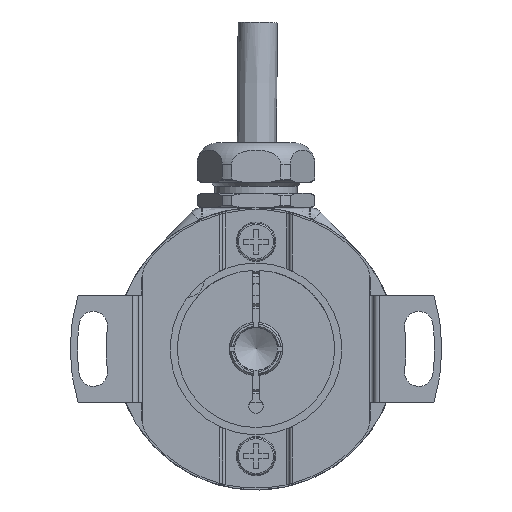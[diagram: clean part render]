
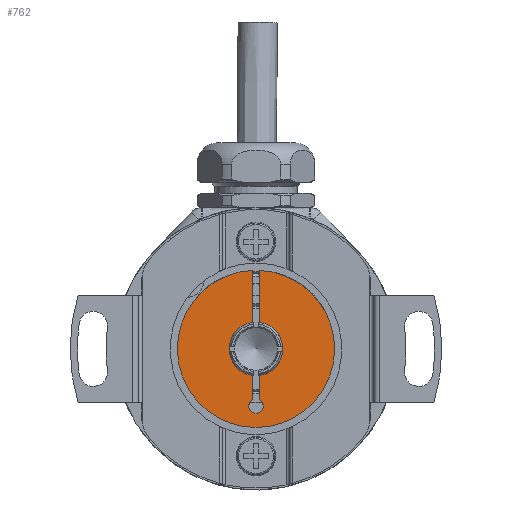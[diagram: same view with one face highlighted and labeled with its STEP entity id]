
A CAD part, left-side view. The second image highlights one B-rep face of the part: STEP entity #762.
In plain terms, the highlighted planar face has unit normal (-1, 0, 0).
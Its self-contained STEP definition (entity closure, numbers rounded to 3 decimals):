
#762 = ADVANCED_FACE( '', ( #1918 ), #1919, .T. );
#1918 = FACE_OUTER_BOUND( '', #3792, .T. );
#1919 = PLANE( '', #3793 );
#3792 = EDGE_LOOP( '', ( #6269, #6270, #6271, #6272, #6273, #6274, #6275, #6276 ) );
#3793 = AXIS2_PLACEMENT_3D( '', #6277, #6278, #6279 );
#6269 = ORIENTED_EDGE( '', *, *, #9894, .F. );
#6270 = ORIENTED_EDGE( '', *, *, #9895, .F. );
#6271 = ORIENTED_EDGE( '', *, *, #9896, .F. );
#6272 = ORIENTED_EDGE( '', *, *, #9857, .F. );
#6273 = ORIENTED_EDGE( '', *, *, #9897, .F. );
#6274 = ORIENTED_EDGE( '', *, *, #9898, .F. );
#6275 = ORIENTED_EDGE( '', *, *, #9899, .F. );
#6276 = ORIENTED_EDGE( '', *, *, #9649, .T. );
#6277 = CARTESIAN_POINT( '', ( -7., 0., 3.75 ) );
#6278 = DIRECTION( '', ( -1., 0., 0. ) );
#6279 = DIRECTION( '', ( 0., 0., 1. ) );
#9649 = EDGE_CURVE( '', #11197, #11194, #11198, .T. );
#9857 = EDGE_CURVE( '', #11550, #11551, #11552, .T. );
#9894 = EDGE_CURVE( '', #11610, #11194, #11611, .T. );
#9895 = EDGE_CURVE( '', #11612, #11610, #11613, .T. );
#9896 = EDGE_CURVE( '', #11551, #11612, #11614, .T. );
#9897 = EDGE_CURVE( '', #11615, #11550, #11616, .T. );
#9898 = EDGE_CURVE( '', #11617, #11615, #11618, .T. );
#9899 = EDGE_CURVE( '', #11197, #11617, #11619, .T. );
#11194 = VERTEX_POINT( '', #13430 );
#11197 = VERTEX_POINT( '', #13434 );
#11198 = CIRCLE( '', #13435, 11. );
#11550 = VERTEX_POINT( '', #14091 );
#11551 = VERTEX_POINT( '', #14092 );
#11552 = CIRCLE( '', #14093, 1. );
#11610 = VERTEX_POINT( '', #14190 );
#11611 = LINE( '', #14191, #14192 );
#11612 = VERTEX_POINT( '', #14193 );
#11613 = CIRCLE( '', #14194, 3.75 );
#11614 = LINE( '', #14195, #14196 );
#11615 = VERTEX_POINT( '', #14197 );
#11616 = LINE( '', #14198, #14199 );
#11617 = VERTEX_POINT( '', #14200 );
#11618 = CIRCLE( '', #14201, 3.75 );
#11619 = LINE( '', #14202, #14203 );
#13430 = CARTESIAN_POINT( '', ( -7., -0.5, 10.989 ) );
#13434 = CARTESIAN_POINT( '', ( -7., 0.5, 10.989 ) );
#13435 = AXIS2_PLACEMENT_3D( '', #17139, #17140, #17141 );
#14091 = CARTESIAN_POINT( '', ( -7., 0.5, -7.134 ) );
#14092 = CARTESIAN_POINT( '', ( -7., -0.5, -7.134 ) );
#14093 = AXIS2_PLACEMENT_3D( '', #17400, #17401, #17402 );
#14190 = CARTESIAN_POINT( '', ( -7., -0.5, 3.717 ) );
#14191 = CARTESIAN_POINT( '', ( -7., -0.5, 3.75 ) );
#14192 = VECTOR( '', #17458, 1000. );
#14193 = CARTESIAN_POINT( '', ( -7., -0.5, -3.717 ) );
#14194 = AXIS2_PLACEMENT_3D( '', #17459, #17460, #17461 );
#14195 = CARTESIAN_POINT( '', ( -7., -0.5, 3.75 ) );
#14196 = VECTOR( '', #17462, 1000. );
#14197 = CARTESIAN_POINT( '', ( -7., 0.5, -3.717 ) );
#14198 = CARTESIAN_POINT( '', ( -7., 0.5, 3.75 ) );
#14199 = VECTOR( '', #17463, 1000. );
#14200 = CARTESIAN_POINT( '', ( -7., 0.5, 3.717 ) );
#14201 = AXIS2_PLACEMENT_3D( '', #17464, #17465, #17466 );
#14202 = CARTESIAN_POINT( '', ( -7., 0.5, 3.75 ) );
#14203 = VECTOR( '', #17467, 1000. );
#17139 = CARTESIAN_POINT( '', ( -7., 0., 0. ) );
#17140 = DIRECTION( '', ( -1., 0., 0. ) );
#17141 = DIRECTION( '', ( 0., 0., 1. ) );
#17400 = CARTESIAN_POINT( '', ( -7., 0., -8. ) );
#17401 = DIRECTION( '', ( -1., 0., 0. ) );
#17402 = DIRECTION( '', ( 0., 0., 1. ) );
#17458 = DIRECTION( '', ( 0., 0., 1. ) );
#17459 = CARTESIAN_POINT( '', ( -7., 0., 0. ) );
#17460 = DIRECTION( '', ( -1., 0., 0. ) );
#17461 = DIRECTION( '', ( 0., 0., 1. ) );
#17462 = DIRECTION( '', ( 0., 0., 1. ) );
#17463 = DIRECTION( '', ( 0., 0., -1. ) );
#17464 = CARTESIAN_POINT( '', ( -7., 0., 0. ) );
#17465 = DIRECTION( '', ( -1., 0., 0. ) );
#17466 = DIRECTION( '', ( 0., 0., 1. ) );
#17467 = DIRECTION( '', ( 0., 0., -1. ) );
